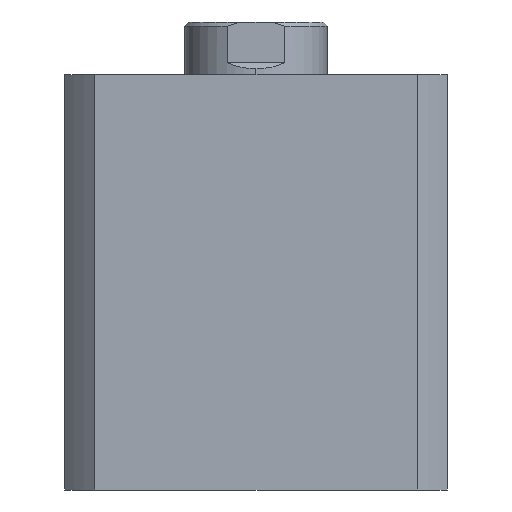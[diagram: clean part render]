
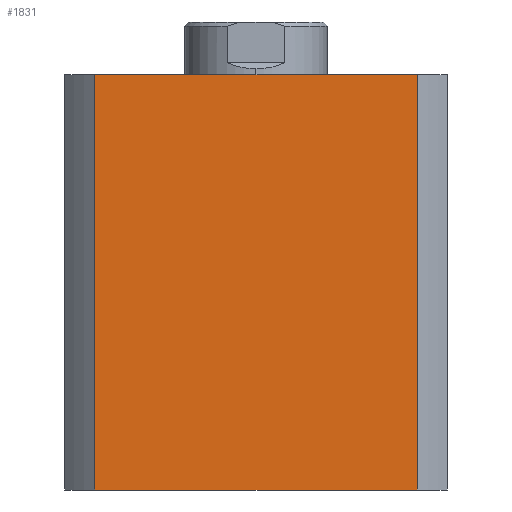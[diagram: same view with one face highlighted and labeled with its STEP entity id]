
A CAD part, left-side view. The second image highlights one B-rep face of the part: STEP entity #1831.
In plain terms, the highlighted planar face has unit normal (-1, 0, 0).
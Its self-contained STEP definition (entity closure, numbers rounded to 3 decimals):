
#265 = FACE_OUTER_BOUND ( 'NONE', #2850, .T. ) ;
#480 = LINE ( 'NONE', #1487, #482 ) ;
#482 = VECTOR ( 'NONE', #1486, 1000. ) ;
#1024 = DIRECTION ( 'NONE',  ( 0., 0., -1. ) ) ;
#1031 = CARTESIAN_POINT ( 'NONE',  ( -47., 39.664, 102. ) ) ;
#1033 = CARTESIAN_POINT ( 'NONE',  ( -47., 0., 0. ) ) ;
#1038 = DIRECTION ( 'NONE',  ( 0., -1., 0. ) ) ;
#1039 = CARTESIAN_POINT ( 'NONE',  ( -47., -39.664, 102. ) ) ;
#1041 = DIRECTION ( 'NONE',  ( 0., 0., -1. ) ) ;
#1168 = CARTESIAN_POINT ( 'NONE',  ( -47., 39.664, 102. ) ) ;
#1176 = CARTESIAN_POINT ( 'NONE',  ( -47., 39.664, 0. ) ) ;
#1191 = CARTESIAN_POINT ( 'NONE',  ( -47., -39.664, 0. ) ) ;
#1225 = CARTESIAN_POINT ( 'NONE',  ( -47., -39.664, 102. ) ) ;
#1486 = DIRECTION ( 'NONE',  ( 0., -1., 0. ) ) ;
#1487 = CARTESIAN_POINT ( 'NONE',  ( -47., 0., 102. ) ) ;
#1831 = ADVANCED_FACE ( 'NONE', ( #265 ), #5037, .F. ) ;
#2761 = ORIENTED_EDGE ( 'NONE', *, *, #4536, .T. ) ;
#2762 = ORIENTED_EDGE ( 'NONE', *, *, #4473, .F. ) ;
#2763 = ORIENTED_EDGE ( 'NONE', *, *, #4538, .F. ) ;
#2764 = ORIENTED_EDGE ( 'NONE', *, *, #4537, .T. ) ;
#2850 = EDGE_LOOP ( 'NONE', ( #2764, #2763, #2762, #2761 ) ) ;
#4070 = VERTEX_POINT ( 'NONE', #1168 ) ;
#4078 = VERTEX_POINT ( 'NONE', #1176 ) ;
#4093 = VERTEX_POINT ( 'NONE', #1191 ) ;
#4127 = VERTEX_POINT ( 'NONE', #1225 ) ;
#4473 = EDGE_CURVE ( 'NONE', #4070, #4127, #480, .T. ) ;
#4536 = EDGE_CURVE ( 'NONE', #4070, #4078, #4611, .T. ) ;
#4537 = EDGE_CURVE ( 'NONE', #4078, #4093, #4609, .T. ) ;
#4538 = EDGE_CURVE ( 'NONE', #4127, #4093, #4614, .T. ) ;
#4609 = LINE ( 'NONE', #1033, #4615 ) ;
#4611 = LINE ( 'NONE', #1031, #4613 ) ;
#4613 = VECTOR ( 'NONE', #1024, 1000. ) ;
#4614 = LINE ( 'NONE', #1039, #4617 ) ;
#4615 = VECTOR ( 'NONE', #1038, 1000. ) ;
#4617 = VECTOR ( 'NONE', #1041, 1000. ) ;
#4885 = AXIS2_PLACEMENT_3D ( 'NONE', #5032, #5040, #5041 ) ;
#5032 = CARTESIAN_POINT ( 'NONE',  ( -47., 0., 102. ) ) ;
#5037 = PLANE ( 'NONE',  #4885 ) ;
#5040 = DIRECTION ( 'NONE',  ( 1., 0., 0. ) ) ;
#5041 = DIRECTION ( 'NONE',  ( 0., 0., -1. ) ) ;
